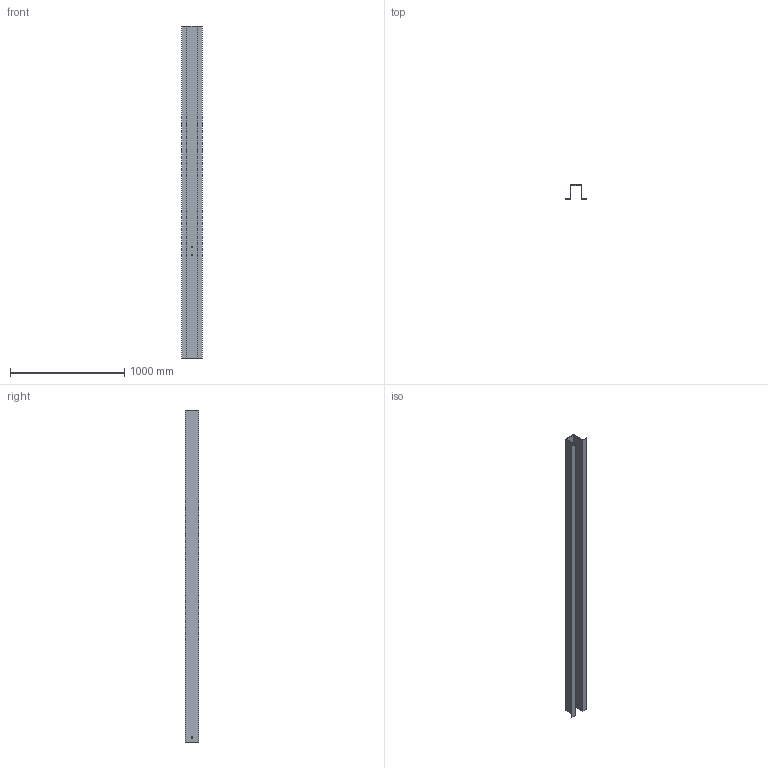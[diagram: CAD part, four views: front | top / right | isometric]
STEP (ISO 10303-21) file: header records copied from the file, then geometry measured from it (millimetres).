
FILE_DESCRIPTION (( 'STEP AP203' ), '1' );
FILE_NAME ('084.106.824.STEP', '2015-05-20T11:46:17', ( '' ), ( '' ), 'SwSTEP 2.0', 'SolidWorks 2012', '' );
FILE_SCHEMA (( 'CONFIG_CONTROL_DESIGN' ));
Length unit declared in the file: millimetre
Products named in the file (1): 084.106.824
Bounding box: 180 x 120 x 2900 mm (x, y, z)
Volume: 5943566.6 mm3; surface area: 2411123.6 mm2
Topology: 1 solids, 1 shells, 22 faces, 60 edges, 40 vertices
Faces by surface type: plane 14, cylinder 8
Entity records: 793 total; most frequent: CARTESIAN_POINT 123, DIRECTION 122, ORIENTED_EDGE 120, EDGE_CURVE 60, VECTOR 44, LINE 44, VERTEX_POINT 40, AXIS2_PLACEMENT_3D 39
